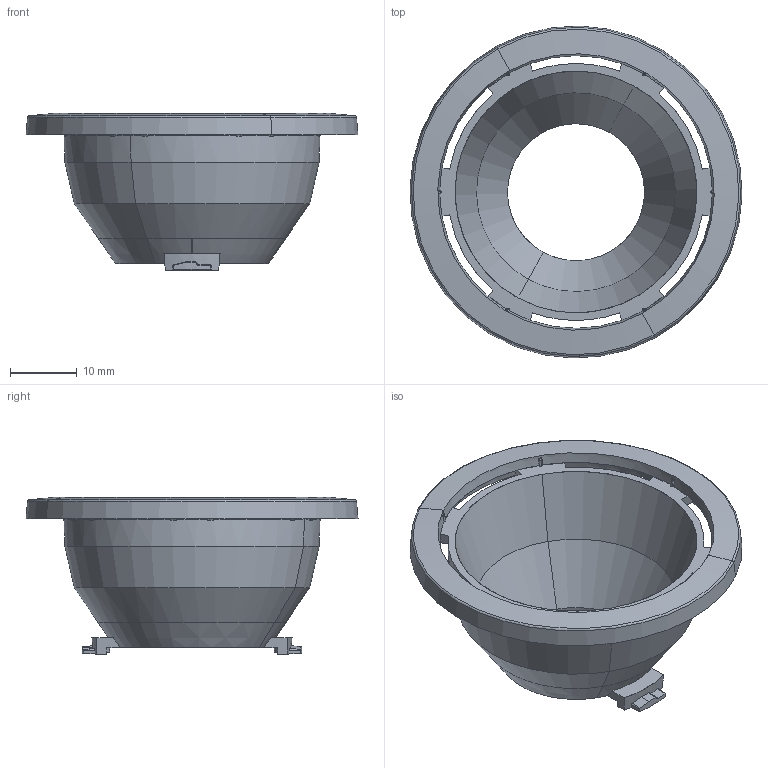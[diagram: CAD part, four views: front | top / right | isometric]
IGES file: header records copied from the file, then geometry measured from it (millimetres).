
Start section: START RECORD GO HERE.
Global section: file name: C15559_MIRELLA-G2-M_Mechanical_model.igs; native system: DASSAULT SYSTEMES CATIA Version 5-6 Release 2013 - www.3ds.com; preprocessor: V5-6R2013_5.23.4.0.01-30-2014.20.00; author: kimmo.harjunpaa; organization: LEDIL; date: 20170511.153343; units: millimetre
Bounding box: 49.89 x 49.89 x 23.61 mm (x, y, z)
Surface area: 7223.7 mm2 (no closed solid volume)
Topology: 0 solids, 0 shells, 369 faces, 1965 edges, 1926 vertices
Faces by surface type: revolution 272, plane 63, bspline 34
